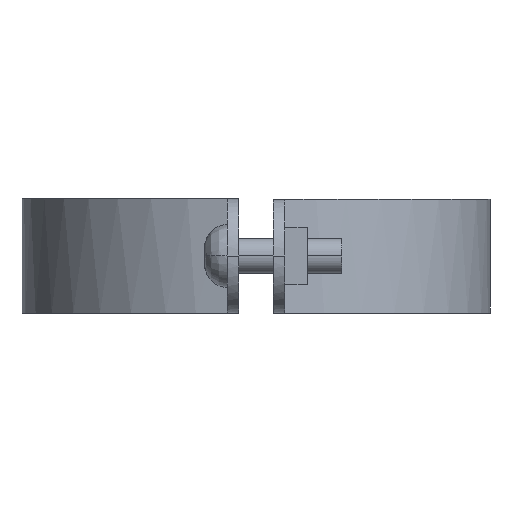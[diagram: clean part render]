
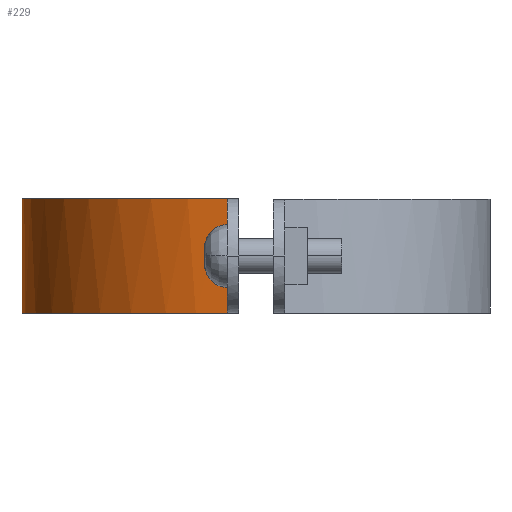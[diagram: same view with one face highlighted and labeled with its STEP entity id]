
A CAD part, left-side view. The second image highlights one B-rep face of the part: STEP entity #229.
In plain terms, the highlighted free-form (B-spline) face has degree [3, 1] with [4, 2] control points.
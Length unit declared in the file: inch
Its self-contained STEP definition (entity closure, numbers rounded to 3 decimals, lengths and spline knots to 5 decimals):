
#229=ADVANCED_FACE('',(#466),#467,.T.);
#466=FACE_OUTER_BOUND('',#1017,.T.);
#467=B_SPLINE_SURFACE_WITH_KNOTS('',3,1,((#1018,#1019),(#1020,#1021),(#1022,#1023),(#1024,#1025)),.UNSPECIFIED.,.F.,.F.,.F.,(4,4),(2,2),(-1.0,-0.0),(0.0,1.255),.UNSPECIFIED.);
#1017=EDGE_LOOP('',(#1625,#1626,#1627,#1628));
#1018=CARTESIAN_POINT('',(3.28225,4.94301,0.0));
#1019=CARTESIAN_POINT('',(3.28225,4.94301,1.255));
#1020=CARTESIAN_POINT('',(1.98731,4.94301,0.0));
#1021=CARTESIAN_POINT('',(1.98731,4.94301,1.255));
#1022=CARTESIAN_POINT('',(0.89569,3.97731,0.0));
#1023=CARTESIAN_POINT('',(0.89569,3.97731,1.255));
#1024=CARTESIAN_POINT('',(0.73777,2.69202,0.0));
#1025=CARTESIAN_POINT('',(0.73777,2.69202,1.255));
#1625=ORIENTED_EDGE('',*,*,#1990,.T.);
#1626=ORIENTED_EDGE('',*,*,#2104,.T.);
#1627=ORIENTED_EDGE('',*,*,#2105,.T.);
#1628=ORIENTED_EDGE('',*,*,#1951,.F.);
#1951=EDGE_CURVE('',#2227,#2229,#2230,.T.);
#1990=EDGE_CURVE('',#2227,#2295,#2297,.T.);
#2104=EDGE_CURVE('',#2295,#2467,#2468,.T.);
#2105=EDGE_CURVE('',#2467,#2229,#2469,.T.);
#2227=VERTEX_POINT('',#2661);
#2229=VERTEX_POINT('',#2664);
#2230=LINE('',#2665,#2666);
#2295=VERTEX_POINT('',#2797);
#2297=B_SPLINE_CURVE_WITH_KNOTS('',3,(#2800,#2801,#2802,#2803),.UNSPECIFIED.,.F.,.F.,(4,4),(-1.0,-0.0),.UNSPECIFIED.);
#2467=VERTEX_POINT('',#3107);
#2468=LINE('',#3108,#3109);
#2469=B_SPLINE_CURVE_WITH_KNOTS('',3,(#3110,#3111,#3112,#3113),.UNSPECIFIED.,.F.,.F.,(4,4),(0.0,1.0),.UNSPECIFIED.);
#2661=CARTESIAN_POINT('',(3.28225,4.94301,0.00261));
#2664=CARTESIAN_POINT('',(3.28225,4.94301,1.25242));
#2665=CARTESIAN_POINT('',(3.28225,4.94301,0.0));
#2666=VECTOR('',#3329,1.0);
#2797=CARTESIAN_POINT('',(0.73777,2.69202,0.00261));
#2800=CARTESIAN_POINT('',(3.28225,4.94301,0.00261));
#2801=CARTESIAN_POINT('',(1.98731,4.94301,0.00261));
#2802=CARTESIAN_POINT('',(0.89569,3.97731,0.00261));
#2803=CARTESIAN_POINT('',(0.73777,2.69202,0.00261));
#3107=CARTESIAN_POINT('',(0.73777,2.69202,1.25242));
#3108=CARTESIAN_POINT('',(0.73777,2.69202,0.0));
#3109=VECTOR('',#3429,1.0);
#3110=CARTESIAN_POINT('',(0.73777,2.69202,1.25242));
#3111=CARTESIAN_POINT('',(0.89569,3.97731,1.25242));
#3112=CARTESIAN_POINT('',(1.98731,4.94301,1.25242));
#3113=CARTESIAN_POINT('',(3.28225,4.94301,1.25242));
#3329=DIRECTION('',(0.0,0.0,1.0));
#3429=DIRECTION('',(0.0,0.0,1.0));
